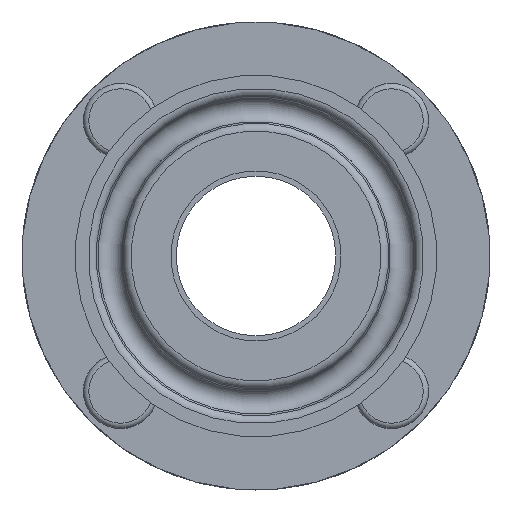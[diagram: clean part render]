
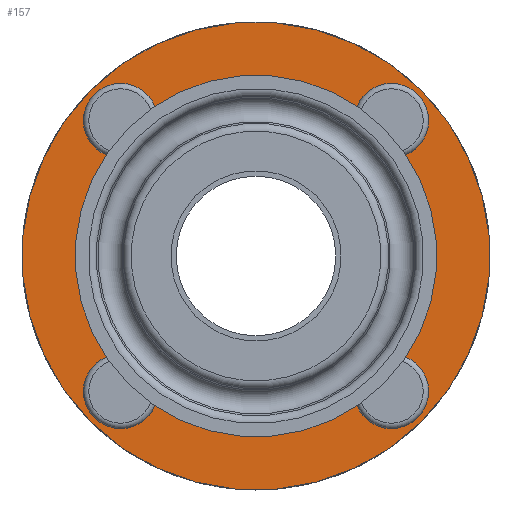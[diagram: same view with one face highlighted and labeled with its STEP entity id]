
A CAD part, front view. The second image highlights one B-rep face of the part: STEP entity #157.
In plain terms, the highlighted planar face has unit normal (0, -1, 0).
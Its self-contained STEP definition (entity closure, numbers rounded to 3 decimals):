
#81=PLANE('',#1125);
#157=ADVANCED_FACE('',(#314,#315,#316,#317,#318,#319),#81,.T.);
#314=FACE_BOUND('',#476,.T.);
#315=FACE_BOUND('',#477,.T.);
#316=FACE_BOUND('',#478,.T.);
#317=FACE_BOUND('',#479,.T.);
#318=FACE_BOUND('',#480,.T.);
#319=FACE_BOUND('',#481,.T.);
#476=EDGE_LOOP('',(#670));
#477=EDGE_LOOP('',(#671));
#478=EDGE_LOOP('',(#672));
#479=EDGE_LOOP('',(#673));
#480=EDGE_LOOP('',(#674));
#481=EDGE_LOOP('',(#675));
#670=ORIENTED_EDGE('',*,*,#922,.T.);
#671=ORIENTED_EDGE('',*,*,#923,.F.);
#672=ORIENTED_EDGE('',*,*,#924,.T.);
#673=ORIENTED_EDGE('',*,*,#925,.F.);
#674=ORIENTED_EDGE('',*,*,#907,.T.);
#675=ORIENTED_EDGE('',*,*,#926,.F.);
#810=VERTEX_POINT('',#1683);
#825=VERTEX_POINT('',#1724);
#826=VERTEX_POINT('',#1726);
#827=VERTEX_POINT('',#1728);
#828=VERTEX_POINT('',#1730);
#829=VERTEX_POINT('',#1732);
#907=EDGE_CURVE('',#810,#810,#988,.T.);
#922=EDGE_CURVE('',#825,#825,#1003,.T.);
#923=EDGE_CURVE('',#826,#826,#1004,.T.);
#924=EDGE_CURVE('',#827,#827,#1005,.T.);
#925=EDGE_CURVE('',#828,#828,#1006,.T.);
#926=EDGE_CURVE('',#829,#829,#1007,.T.);
#988=CIRCLE('',#1094,12.);
#1003=CIRCLE('',#1120,3.5);
#1004=CIRCLE('',#1121,3.5);
#1005=CIRCLE('',#1122,3.5);
#1006=CIRCLE('',#1123,3.5);
#1007=CIRCLE('',#1124,22.);
#1094=AXIS2_PLACEMENT_3D('',#1682,#1318,#1319);
#1120=AXIS2_PLACEMENT_3D('',#1723,#1370,#1371);
#1121=AXIS2_PLACEMENT_3D('',#1725,#1372,#1373);
#1122=AXIS2_PLACEMENT_3D('',#1727,#1374,#1375);
#1123=AXIS2_PLACEMENT_3D('',#1729,#1376,#1377);
#1124=AXIS2_PLACEMENT_3D('',#1731,#1378,#1379);
#1125=AXIS2_PLACEMENT_3D('',#1733,#1380,#1381);
#1318=DIRECTION('',(0.,1.,0.));
#1319=DIRECTION('',(0.707,0.,-0.707));
#1370=DIRECTION('',(0.,1.,0.));
#1371=DIRECTION('',(0.,0.,1.));
#1372=DIRECTION('',(0.,-1.,0.));
#1373=DIRECTION('',(0.,0.,-1.));
#1374=DIRECTION('',(0.,1.,0.));
#1375=DIRECTION('',(0.,0.,1.));
#1376=DIRECTION('',(0.,-1.,0.));
#1377=DIRECTION('',(0.,0.,-1.));
#1378=DIRECTION('',(0.,1.,0.));
#1379=DIRECTION('',(-0.707,0.,0.707));
#1380=DIRECTION('',(0.,-1.,0.));
#1381=DIRECTION('',(0.707,0.,-0.707));
#1682=CARTESIAN_POINT('',(0.,-40.5,0.));
#1683=CARTESIAN_POINT('',(8.485,-40.5,-8.485));
#1723=CARTESIAN_POINT('',(12.728,-40.5,12.728));
#1724=CARTESIAN_POINT('',(12.728,-40.5,16.228));
#1725=CARTESIAN_POINT('',(12.728,-40.5,-12.728));
#1726=CARTESIAN_POINT('',(12.728,-40.5,-16.228));
#1727=CARTESIAN_POINT('',(-12.728,-40.5,12.728));
#1728=CARTESIAN_POINT('',(-12.728,-40.5,16.228));
#1729=CARTESIAN_POINT('',(-12.728,-40.5,-12.728));
#1730=CARTESIAN_POINT('',(-12.728,-40.5,-16.228));
#1731=CARTESIAN_POINT('',(0.,-40.5,0.));
#1732=CARTESIAN_POINT('',(-15.556,-40.5,15.556));
#1733=CARTESIAN_POINT('',(0.,-40.5,0.));
